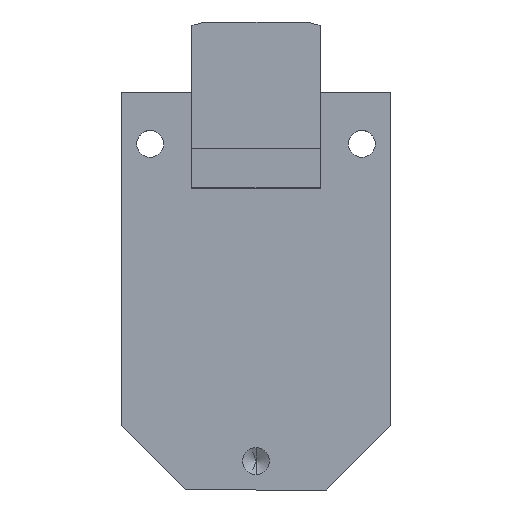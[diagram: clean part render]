
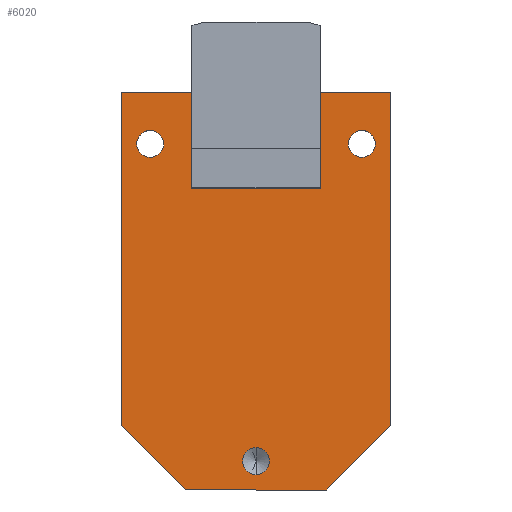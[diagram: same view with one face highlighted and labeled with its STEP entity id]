
A CAD part, front view. The second image highlights one B-rep face of the part: STEP entity #6020.
In plain terms, the highlighted planar face has unit normal (0, -1, 0).
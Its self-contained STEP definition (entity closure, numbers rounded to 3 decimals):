
#83 = AXIS2_PLACEMENT_3D ( 'NONE', #4364, #1202, #4447 ) ;
#134 = CARTESIAN_POINT ( 'NONE',  ( -14.545, -10.23, 35.5 ) ) ;
#302 = DIRECTION ( 'NONE',  ( 0., -1., 0. ) ) ;
#499 = ORIENTED_EDGE ( 'NONE', *, *, #9935, .F. ) ;
#505 = EDGE_CURVE ( 'NONE', #9411, #3816, #10723, .T. ) ;
#559 = LINE ( 'NONE', #3628, #10828 ) ;
#580 = VERTEX_POINT ( 'NONE', #10242 ) ;
#693 = DIRECTION ( 'NONE',  ( 0., 0., -1. ) ) ;
#801 = VECTOR ( 'NONE', #10336, 1000. ) ;
#1111 = LINE ( 'NONE', #9152, #6511 ) ;
#1112 = DIRECTION ( 'NONE',  ( 0., -1., 0. ) ) ;
#1125 = CIRCLE ( 'NONE', #6174, 2.1 ) ;
#1178 = DIRECTION ( 'NONE',  ( 0., 0., -1. ) ) ;
#1202 = DIRECTION ( 'NONE',  ( 0., -1., 0. ) ) ;
#1353 = ORIENTED_EDGE ( 'NONE', *, *, #3796, .F. ) ;
#1493 = EDGE_CURVE ( 'NONE', #10124, #10571, #559, .T. ) ;
#1790 = CARTESIAN_POINT ( 'NONE',  ( -24.645, -10.23, 78. ) ) ;
#2238 = LINE ( 'NONE', #12268, #12523 ) ;
#2240 = EDGE_LOOP ( 'NONE', ( #499, #2327, #12931, #9908, #3784, #5942, #7987, #12998, #4327, #13003 ) ) ;
#2327 = ORIENTED_EDGE ( 'NONE', *, *, #10784, .T. ) ;
#2335 = VERTEX_POINT ( 'NONE', #7117 ) ;
#2339 = CARTESIAN_POINT ( 'NONE',  ( 6.455, -10.23, 93. ) ) ;
#2345 = ORIENTED_EDGE ( 'NONE', *, *, #505, .F. ) ;
#2914 = CARTESIAN_POINT ( 'NONE',  ( -35.545, -10.23, 93. ) ) ;
#2997 = DIRECTION ( 'NONE',  ( 0., 0., 1. ) ) ;
#3012 = CARTESIAN_POINT ( 'NONE',  ( -35.545, -10.23, 93. ) ) ;
#3130 = DIRECTION ( 'NONE',  ( 0., -1., 0. ) ) ;
#3142 = VECTOR ( 'NONE', #9414, 1000. ) ;
#3275 = CIRCLE ( 'NONE', #7073, 2.1 ) ;
#3277 = CARTESIAN_POINT ( 'NONE',  ( -35.545, -10.23, 93. ) ) ;
#3335 = CARTESIAN_POINT ( 'NONE',  ( 6.455, -10.23, 41. ) ) ;
#3368 = DIRECTION ( 'NONE',  ( 0., 0., -1. ) ) ;
#3377 = VERTEX_POINT ( 'NONE', #8513 ) ;
#3416 = CARTESIAN_POINT ( 'NONE',  ( 6.455, -10.23, 93. ) ) ;
#3477 = EDGE_CURVE ( 'NONE', #4734, #3377, #3605, .T. ) ;
#3502 = FACE_BOUND ( 'NONE', #9970, .T. ) ;
#3542 = VECTOR ( 'NONE', #693, 1000. ) ;
#3605 = CIRCLE ( 'NONE', #83, 2.1 ) ;
#3620 = CARTESIAN_POINT ( 'NONE',  ( -4.445, -10.23, 93. ) ) ;
#3628 = CARTESIAN_POINT ( 'NONE',  ( -35.545, -10.23, 31. ) ) ;
#3732 = CARTESIAN_POINT ( 'NONE',  ( -35.545, -10.23, 93. ) ) ;
#3767 = CIRCLE ( 'NONE', #8973, 2.1 ) ;
#3784 = ORIENTED_EDGE ( 'NONE', *, *, #7835, .T. ) ;
#3796 = EDGE_CURVE ( 'NONE', #12524, #4138, #3767, .T. ) ;
#3816 = VERTEX_POINT ( 'NONE', #7870 ) ;
#3865 = DIRECTION ( 'NONE',  ( 0., 0., 1. ) ) ;
#3897 = VERTEX_POINT ( 'NONE', #6079 ) ;
#3960 = DIRECTION ( 'NONE',  ( 0., 0., 1. ) ) ;
#4138 = VERTEX_POINT ( 'NONE', #6720 ) ;
#4282 = EDGE_LOOP ( 'NONE', ( #12452, #1353 ) ) ;
#4299 = CARTESIAN_POINT ( 'NONE',  ( -14.545, -10.23, 37.6 ) ) ;
#4327 = ORIENTED_EDGE ( 'NONE', *, *, #5164, .F. ) ;
#4364 = CARTESIAN_POINT ( 'NONE',  ( 1.955, -10.23, 85. ) ) ;
#4437 = CARTESIAN_POINT ( 'NONE',  ( -31.045, -10.23, 87.1 ) ) ;
#4447 = DIRECTION ( 'NONE',  ( 0., 0., 1. ) ) ;
#4531 = DIRECTION ( 'NONE',  ( 0., -1., 0. ) ) ;
#4734 = VERTEX_POINT ( 'NONE', #6904 ) ;
#4813 = VECTOR ( 'NONE', #10073, 1000. ) ;
#5016 = EDGE_CURVE ( 'NONE', #5375, #2335, #6228, .T. ) ;
#5164 = EDGE_CURVE ( 'NONE', #12793, #8962, #12700, .T. ) ;
#5188 = CARTESIAN_POINT ( 'NONE',  ( -24.645, -10.23, 93. ) ) ;
#5244 = EDGE_CURVE ( 'NONE', #10571, #3897, #12861, .T. ) ;
#5255 = VECTOR ( 'NONE', #9475, 1000. ) ;
#5347 = CARTESIAN_POINT ( 'NONE',  ( -3.545, -10.23, 31. ) ) ;
#5367 = CARTESIAN_POINT ( 'NONE',  ( -25.545, -10.23, 31. ) ) ;
#5375 = VERTEX_POINT ( 'NONE', #8657 ) ;
#5645 = ORIENTED_EDGE ( 'NONE', *, *, #8024, .F. ) ;
#5942 = ORIENTED_EDGE ( 'NONE', *, *, #1493, .T. ) ;
#6020 = ADVANCED_FACE ( 'NONE', ( #11393, #8956, #3502, #8618 ), #10062, .F. ) ;
#6069 = VECTOR ( 'NONE', #3865, 1000. ) ;
#6079 = CARTESIAN_POINT ( 'NONE',  ( 6.455, -10.23, 41. ) ) ;
#6174 = AXIS2_PLACEMENT_3D ( 'NONE', #10668, #4531, #11731 ) ;
#6228 = LINE ( 'NONE', #3732, #3542 ) ;
#6406 = CARTESIAN_POINT ( 'NONE',  ( 1.955, -10.23, 85. ) ) ;
#6511 = VECTOR ( 'NONE', #2997, 1000. ) ;
#6539 = EDGE_CURVE ( 'NONE', #4138, #12524, #8122, .T. ) ;
#6720 = CARTESIAN_POINT ( 'NONE',  ( -14.545, -10.23, 33.4 ) ) ;
#6904 = CARTESIAN_POINT ( 'NONE',  ( 1.955, -10.23, 87.1 ) ) ;
#7073 = AXIS2_PLACEMENT_3D ( 'NONE', #6406, #302, #7459 ) ;
#7117 = CARTESIAN_POINT ( 'NONE',  ( -35.545, -10.23, 41. ) ) ;
#7301 = DIRECTION ( 'NONE',  ( 0., -1., 0. ) ) ;
#7405 = DIRECTION ( 'NONE',  ( 1., 0., 0. ) ) ;
#7459 = DIRECTION ( 'NONE',  ( 0., 0., 1. ) ) ;
#7570 = VERTEX_POINT ( 'NONE', #5188 ) ;
#7835 = EDGE_CURVE ( 'NONE', #2335, #10124, #11728, .T. ) ;
#7870 = CARTESIAN_POINT ( 'NONE',  ( -31.045, -10.23, 82.9 ) ) ;
#7987 = ORIENTED_EDGE ( 'NONE', *, *, #5244, .T. ) ;
#8024 = EDGE_CURVE ( 'NONE', #3816, #9411, #1125, .T. ) ;
#8025 = CARTESIAN_POINT ( 'NONE',  ( -14.545, -10.23, 35.5 ) ) ;
#8122 = CIRCLE ( 'NONE', #8647, 2.1 ) ;
#8211 = EDGE_CURVE ( 'NONE', #11551, #12793, #1111, .T. ) ;
#8246 = CARTESIAN_POINT ( 'NONE',  ( -35.545, -10.23, 41. ) ) ;
#8262 = LINE ( 'NONE', #3277, #3142 ) ;
#8513 = CARTESIAN_POINT ( 'NONE',  ( 1.955, -10.23, 82.9 ) ) ;
#8618 = FACE_OUTER_BOUND ( 'NONE', #2240, .T. ) ;
#8647 = AXIS2_PLACEMENT_3D ( 'NONE', #134, #7301, #1178 ) ;
#8657 = CARTESIAN_POINT ( 'NONE',  ( -35.545, -10.23, 93. ) ) ;
#8775 = DIRECTION ( 'NONE',  ( 0., 0., -1. ) ) ;
#8804 = LINE ( 'NONE', #1790, #6069 ) ;
#8956 = FACE_BOUND ( 'NONE', #9753, .T. ) ;
#8962 = VERTEX_POINT ( 'NONE', #3416 ) ;
#8973 = AXIS2_PLACEMENT_3D ( 'NONE', #8025, #1112, #8775 ) ;
#9152 = CARTESIAN_POINT ( 'NONE',  ( -4.445, -10.23, 78. ) ) ;
#9272 = ORIENTED_EDGE ( 'NONE', *, *, #3477, .F. ) ;
#9273 = DIRECTION ( 'NONE',  ( 0., 0., 1. ) ) ;
#9411 = VERTEX_POINT ( 'NONE', #4437 ) ;
#9414 = DIRECTION ( 'NONE',  ( 1., 0., 0. ) ) ;
#9475 = DIRECTION ( 'NONE',  ( 0.707, 0., 0.707 ) ) ;
#9506 = CARTESIAN_POINT ( 'NONE',  ( -4.445, -10.23, 78. ) ) ;
#9753 = EDGE_LOOP ( 'NONE', ( #9272, #10159 ) ) ;
#9857 = AXIS2_PLACEMENT_3D ( 'NONE', #2914, #10112, #3960 ) ;
#9908 = ORIENTED_EDGE ( 'NONE', *, *, #5016, .T. ) ;
#9935 = EDGE_CURVE ( 'NONE', #580, #11551, #2238, .T. ) ;
#9970 = EDGE_LOOP ( 'NONE', ( #2345, #5645 ) ) ;
#10062 = PLANE ( 'NONE',  #9857 ) ;
#10073 = DIRECTION ( 'NONE',  ( 1., 0., 0. ) ) ;
#10112 = DIRECTION ( 'NONE',  ( 0., 1., 0. ) ) ;
#10124 = VERTEX_POINT ( 'NONE', #5367 ) ;
#10159 = ORIENTED_EDGE ( 'NONE', *, *, #12608, .F. ) ;
#10242 = CARTESIAN_POINT ( 'NONE',  ( -24.645, -10.23, 78. ) ) ;
#10322 = AXIS2_PLACEMENT_3D ( 'NONE', #10326, #3130, #9273 ) ;
#10326 = CARTESIAN_POINT ( 'NONE',  ( -31.045, -10.23, 85. ) ) ;
#10336 = DIRECTION ( 'NONE',  ( 0.707, 0., -0.707 ) ) ;
#10571 = VERTEX_POINT ( 'NONE', #5347 ) ;
#10668 = CARTESIAN_POINT ( 'NONE',  ( -31.045, -10.23, 85. ) ) ;
#10723 = CIRCLE ( 'NONE', #10322, 2.1 ) ;
#10784 = EDGE_CURVE ( 'NONE', #580, #7570, #8804, .T. ) ;
#10828 = VECTOR ( 'NONE', #7405, 1000. ) ;
#11393 = FACE_BOUND ( 'NONE', #4282, .T. ) ;
#11551 = VERTEX_POINT ( 'NONE', #9506 ) ;
#11728 = LINE ( 'NONE', #8246, #801 ) ;
#11731 = DIRECTION ( 'NONE',  ( 0., 0., 1. ) ) ;
#12020 = EDGE_CURVE ( 'NONE', #5375, #7570, #8262, .T. ) ;
#12061 = EDGE_CURVE ( 'NONE', #8962, #3897, #12476, .T. ) ;
#12149 = VECTOR ( 'NONE', #3368, 1000. ) ;
#12268 = CARTESIAN_POINT ( 'NONE',  ( -24.645, -10.23, 78. ) ) ;
#12452 = ORIENTED_EDGE ( 'NONE', *, *, #6539, .F. ) ;
#12476 = LINE ( 'NONE', #2339, #12149 ) ;
#12523 = VECTOR ( 'NONE', #13284, 1000. ) ;
#12524 = VERTEX_POINT ( 'NONE', #4299 ) ;
#12608 = EDGE_CURVE ( 'NONE', #3377, #4734, #3275, .T. ) ;
#12700 = LINE ( 'NONE', #3012, #4813 ) ;
#12793 = VERTEX_POINT ( 'NONE', #3620 ) ;
#12861 = LINE ( 'NONE', #3335, #5255 ) ;
#12931 = ORIENTED_EDGE ( 'NONE', *, *, #12020, .F. ) ;
#12998 = ORIENTED_EDGE ( 'NONE', *, *, #12061, .F. ) ;
#13003 = ORIENTED_EDGE ( 'NONE', *, *, #8211, .F. ) ;
#13284 = DIRECTION ( 'NONE',  ( 1., 0., 0. ) ) ;
